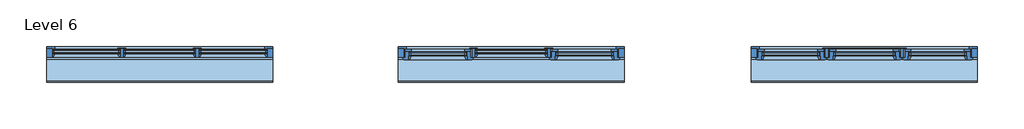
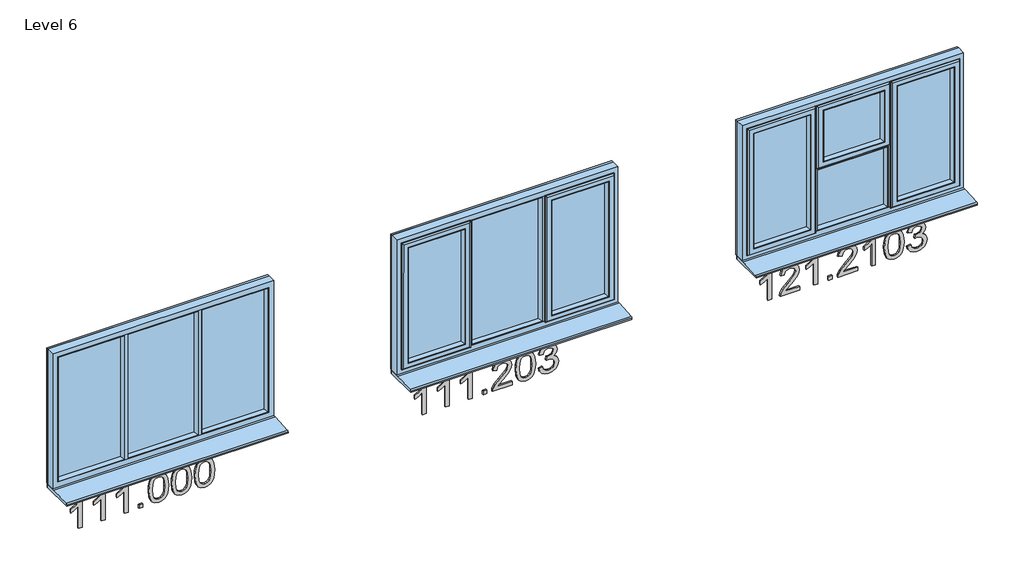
# One storey, incomplete: 3 proxies, 3 windows.
"""IFC4 building model written with IfcOpenShell, lengths in millimetres."""

from ifc_helpers import new_model, si_unit, frame, origin, place, context, project, spatial, polyline, outline, extrude, transform, mapped, element, save
from components import standard_d68943e1, standard_a03a8379, standard_205d9bfb

model = new_model("IFC4")

# Units and contexts
model_context = context("Model", 3, world=origin())
ifc_project = project(units=[si_unit("LENGTHUNIT", "METRE", prefix="MILLI")], contexts=[model_context])

# Site, building, storey
site = spatial("IfcSite", under=ifc_project)
building = spatial("IfcBuilding", under=site)
storey = spatial("IfcBuildingStorey", under=building, Name="Level 6", Elevation=15000.0)

# Proxies
placement = place(None, origin())
element("IfcBuildingElementProxy", 1, Name="200mm Arial", ObjectType="200mm Arial", at=placement, inside=storey, context=model_context, shape_type="SweptSolid", body=[
    extrude(outline(polyline([(15334.3207785, -163126.777074), (15535.2333988, -163126.777074), (15535.2333988, -163142.9638818), (15522.0754861, -163151.8359693), (15508.5006405, -163165.3065817), (15485.0052437, -163202.1193066), (15461.2645923, -163202.1193066), (15473.9442584, -163175.6808539), (15490.8913556, -163151.8911516), (15334.3207785, -163151.8911516), (15334.3207785, -163126.777074)])), frame((0.0, 24202.6264647, 0.0), z_axis=(0.0, 1.0, 0.0), x_axis=(0.0, 0.0, 1.0)), (0.0, 0.0, 1.0), 10.0),
    extrude(outline(polyline([(15334.3207785, -162972.9533491), (15535.2333988, -162972.9533491), (15535.2333988, -162989.1401569), (15522.0754861, -162998.0122444), (15508.5006405, -163011.4828567), (15485.0052437, -163048.2955817), (15461.2645923, -163048.2955817), (15473.9442584, -163021.857129), (15490.8913556, -162998.0674267), (15334.3207785, -162998.0674267), (15334.3207785, -162972.9533491)])), frame((0.0, 24202.6264647, 0.0), z_axis=(0.0, 1.0, 0.0), x_axis=(0.0, 0.0, 1.0)), (0.0, 0.0, 1.0), 10.0),
    extrude(outline(polyline([(15334.3207785, -162819.1296242), (15535.2333988, -162819.1296242), (15535.2333988, -162835.316432), (15522.0754861, -162844.1885194), (15508.5006405, -162857.6591318), (15485.0052437, -162894.4718568), (15461.2645923, -162894.4718568), (15473.9442584, -162868.0334041), (15490.8913556, -162844.2437017), (15334.3207785, -162844.2437017), (15334.3207785, -162819.1296242)])), frame((0.0, 24202.6264647, 0.0), z_axis=(0.0, 1.0, 0.0), x_axis=(0.0, 0.0, 1.0)), (0.0, 0.0, 1.0), 10.0),
    extrude(outline(polyline([(-162721.8125737, 24202.6264647), (-162746.9266513, 24202.6264647), (-162746.9266513, 24212.6264647), (-162721.8125737, 24212.6264647), (-162721.8125737, 24202.6264647)])), frame((0.0, 0.0, 15334.3207785), z_axis=(0.0, 0.0, 1.0), x_axis=(1.0, 0.0, 0.0)), (0.0, 0.0, 1.0), 25.1140775),
    extrude(outline(polyline([(15433.1584079, -162681.0021977), (15384.2914162, -162675.9990026), (15365.4405296, -162669.7450087), (15350.3113825, -162660.9894172), (15335.9639847, -162641.1728404), (15331.1815188, -162615.0777442), (15333.9345024, -162594.7767894), (15342.1934532, -162578.3140702), (15356.0503417, -162565.5792218), (15375.5971383, -162556.4618796), (15401.1833311, -162550.9804379), (15433.1584079, -162549.1532907), (15480.3699306, -162553.7150274), (15510.0947958, -162565.4872513), (15520.8553441, -162574.1570036), (15528.7586757, -162585.7452865), (15533.614718, -162599.6021749), (15535.2333988, -162615.0777442), (15532.4988093, -162635.2683344), (15524.2950408, -162651.6942655), (15510.4933346, -162664.447508), (15490.964932, -162673.6200324), (15465.3174256, -162679.1566564), (15433.1584079, -162681.0021977)]), holes=[polyline([(15433.2074588, -162655.8881202), (15472.2029503, -162652.8469624), (15496.6793657, -162643.7234889), (15506.7593324, -162631.0928737), (15510.1193212, -162615.3720498), (15506.3056112, -162598.7683091), (15494.8644812, -162585.6471846), (15471.8228055, -162577.1123223), (15433.2074588, -162574.2673682), (15393.7643775, -162577.2104242), (15370.8882488, -162586.0395921), (15359.9437594, -162599.185242), (15356.2955963, -162615.0777442), (15359.9314967, -162630.9702464), (15370.8391979, -162644.1158964), (15393.7030639, -162652.9450642), (15433.2074588, -162655.8881202)])]), frame((0.0, 24202.6264647, 0.0), z_axis=(0.0, 1.0, 0.0), x_axis=(0.0, 0.0, 1.0)), (0.0, 0.0, 1.0), 10.0),
    extrude(outline(polyline([(15433.1584079, -162527.1784728), (15384.2914162, -162522.1752777), (15365.4405296, -162515.9212838), (15350.3113825, -162507.1656923), (15335.9639847, -162487.3491155), (15331.1815188, -162461.2540193), (15333.9345024, -162440.9530645), (15342.1934532, -162424.4903452), (15356.0503417, -162411.7554968), (15375.5971383, -162402.6381547), (15401.1833311, -162397.156713), (15433.1584079, -162395.3295658), (15480.3699306, -162399.8913025), (15510.0947958, -162411.6635263), (15520.8553441, -162420.3332787), (15528.7586757, -162431.9215615), (15533.614718, -162445.77845), (15535.2333988, -162461.2540193), (15532.4988093, -162481.4446095), (15524.2950408, -162497.8705405), (15510.4933346, -162510.623783), (15490.964932, -162519.7963075), (15465.3174256, -162525.3329315), (15433.1584079, -162527.1784728)]), holes=[polyline([(15433.2074588, -162502.0643953), (15472.2029503, -162499.0232375), (15496.6793657, -162489.899764), (15506.7593324, -162477.2691488), (15510.1193212, -162461.5483249), (15506.3056112, -162444.9445842), (15494.8644812, -162431.8234597), (15471.8228055, -162423.2885974), (15433.2074588, -162420.4436433), (15393.7643775, -162423.3866993), (15370.8882488, -162432.2158671), (15359.9437594, -162445.3615171), (15356.2955963, -162461.2540193), (15359.9314967, -162477.1465215), (15370.8391979, -162490.2921714), (15393.7030639, -162499.1213393), (15433.2074588, -162502.0643953)])]), frame((0.0, 24202.6264647, 0.0), z_axis=(0.0, 1.0, 0.0), x_axis=(0.0, 0.0, 1.0)), (0.0, 0.0, 1.0), 10.0),
    extrude(outline(polyline([(15433.1584079, -162373.3547479), (15384.2914162, -162368.3515528), (15365.4405296, -162362.0975589), (15350.3113825, -162353.3419674), (15335.9639847, -162333.5253906), (15331.1815188, -162307.4302944), (15333.9345024, -162287.1293396), (15342.1934532, -162270.6666203), (15356.0503417, -162257.9317719), (15375.5971383, -162248.8144298), (15401.1833311, -162243.3329881), (15433.1584079, -162241.5058408), (15480.3699306, -162246.0675776), (15510.0947958, -162257.8398014), (15520.8553441, -162266.5095538), (15528.7586757, -162278.0978366), (15533.614718, -162291.9547251), (15535.2333988, -162307.4302944), (15532.4988093, -162327.6208845), (15524.2950408, -162344.0468156), (15510.4933346, -162356.8000581), (15490.964932, -162365.9725825), (15465.3174256, -162371.5092066), (15433.1584079, -162373.3547479)]), holes=[polyline([(15433.2074588, -162348.2406704), (15472.2029503, -162345.1995125), (15496.6793657, -162336.0760391), (15506.7593324, -162323.4454239), (15510.1193212, -162307.7246), (15506.3056112, -162291.1208593), (15494.8644812, -162277.9997348), (15471.8228055, -162269.4648725), (15433.2074588, -162266.6199184), (15393.7643775, -162269.5629743), (15370.8882488, -162278.3921422), (15359.9437594, -162291.5377922), (15356.2955963, -162307.4302944), (15359.9314967, -162323.3227966), (15370.8391979, -162336.4684465), (15393.7030639, -162345.2976144), (15433.2074588, -162348.2406704)])]), frame((0.0, 24202.6264647, 0.0), z_axis=(0.0, 1.0, 0.0), x_axis=(0.0, 0.0, 1.0)), (0.0, 0.0, 1.0), 10.0),
])
element("IfcBuildingElementProxy", 2, Name="200mm Arial", ObjectType="200mm Arial", at=placement, inside=storey, context=model_context, shape_type="SweptSolid", body=[
    extrude(outline(polyline([(15334.3207785, -160826.777074), (15535.2333988, -160826.777074), (15535.2333988, -160842.9638818), (15522.0754861, -160851.8359693), (15508.5006405, -160865.3065817), (15485.0052437, -160902.1193066), (15461.2645923, -160902.1193066), (15473.9442584, -160875.6808539), (15490.8913556, -160851.8911516), (15334.3207785, -160851.8911516), (15334.3207785, -160826.777074)])), frame((0.0, 24202.6264647, 0.0), z_axis=(0.0, 1.0, 0.0), x_axis=(0.0, 0.0, 1.0)), (0.0, 0.0, 1.0), 10.0),
    extrude(outline(polyline([(15334.3207785, -160672.9533491), (15535.2333988, -160672.9533491), (15535.2333988, -160689.1401569), (15522.0754861, -160698.0122444), (15508.5006405, -160711.4828567), (15485.0052437, -160748.2955817), (15461.2645923, -160748.2955817), (15473.9442584, -160721.857129), (15490.8913556, -160698.0674267), (15334.3207785, -160698.0674267), (15334.3207785, -160672.9533491)])), frame((0.0, 24202.6264647, 0.0), z_axis=(0.0, 1.0, 0.0), x_axis=(0.0, 0.0, 1.0)), (0.0, 0.0, 1.0), 10.0),
    extrude(outline(polyline([(15334.3207785, -160519.1296242), (15535.2333988, -160519.1296242), (15535.2333988, -160535.316432), (15522.0754861, -160544.1885194), (15508.5006405, -160557.6591318), (15485.0052437, -160594.4718568), (15461.2645923, -160594.4718568), (15473.9442584, -160568.0334041), (15490.8913556, -160544.2437017), (15334.3207785, -160544.2437017), (15334.3207785, -160519.1296242)])), frame((0.0, 24202.6264647, 0.0), z_axis=(0.0, 1.0, 0.0), x_axis=(0.0, 0.0, 1.0)), (0.0, 0.0, 1.0), 10.0),
    extrude(outline(polyline([(-160421.8125737, 24202.6264647), (-160446.9266513, 24202.6264647), (-160446.9266513, 24212.6264647), (-160421.8125737, 24212.6264647), (-160421.8125737, 24202.6264647)])), frame((0.0, 0.0, 15334.3207785), z_axis=(0.0, 0.0, 1.0), x_axis=(1.0, 0.0, 0.0)), (0.0, 0.0, 1.0), 25.1140775),
    extrude(outline(polyline([(15359.434856, -160252.2925504), (15359.434856, -160350.933976), (15372.212624, -160339.6032106), (15396.3702083, -160310.7122112), (15430.7794376, -160274.7333521), (15455.4030058, -160259.8954449), (15479.2172337, -160255.4318101), (15501.1184751, -160259.5704825), (15519.1446929, -160271.9864998), (15531.2112223, -160291.5026397), (15535.2333988, -160316.9416797), (15531.6158925, -160342.1967786), (15520.7633736, -160361.7497067), (15503.0191987, -160374.9137507), (15478.7267243, -160381.0021977), (15475.5874646, -160355.8881202), (15490.0207016, -160353.1719248), (15500.9467968, -160345.3176442), (15507.8261901, -160333.1468815), (15510.1193212, -160317.4812399), (15507.7710078, -160302.563625), (15500.7260676, -160290.7730071), (15490.2720876, -160283.1026675), (15477.6966547, -160280.5458876), (15463.668088, -160283.2559516), (15449.2471138, -160291.3861437), (15407.4066682, -160334.7471682), (15378.2949396, -160366.1888161), (15351.6357577, -160381.4436561), (15334.3207785, -160384.1414574), (15334.3207785, -160252.2925504), (15359.434856, -160252.2925504)])), frame((0.0, 24202.6264647, 0.0), z_axis=(0.0, 1.0, 0.0), x_axis=(0.0, 0.0, 1.0)), (0.0, 0.0, 1.0), 10.0),
    extrude(outline(polyline([(15433.1584079, -160227.1784728), (15384.2914162, -160222.1752777), (15365.4405296, -160215.9212838), (15350.3113825, -160207.1656923), (15335.9639847, -160187.3491155), (15331.1815188, -160161.2540193), (15333.9345024, -160140.9530645), (15342.1934532, -160124.4903452), (15356.0503417, -160111.7554968), (15375.5971383, -160102.6381547), (15401.1833311, -160097.156713), (15433.1584079, -160095.3295658), (15480.3699306, -160099.8913025), (15510.0947958, -160111.6635263), (15520.8553441, -160120.3332787), (15528.7586757, -160131.9215615), (15533.614718, -160145.77845), (15535.2333988, -160161.2540193), (15532.4988093, -160181.4446095), (15524.2950408, -160197.8705405), (15510.4933346, -160210.623783), (15490.964932, -160219.7963075), (15465.3174256, -160225.3329315), (15433.1584079, -160227.1784728)]), holes=[polyline([(15433.2074588, -160202.0643953), (15472.2029503, -160199.0232375), (15496.6793657, -160189.899764), (15506.7593324, -160177.2691488), (15510.1193212, -160161.5483249), (15506.3056112, -160144.9445842), (15494.8644812, -160131.8234597), (15471.8228055, -160123.2885974), (15433.2074588, -160120.4436433), (15393.7643775, -160123.3866993), (15370.8882488, -160132.2158671), (15359.9437594, -160145.3615171), (15356.2955963, -160161.2540193), (15359.9314967, -160177.1465215), (15370.8391979, -160190.2921714), (15393.7030639, -160199.1213393), (15433.2074588, -160202.0643953)])]), frame((0.0, 24202.6264647, 0.0), z_axis=(0.0, 1.0, 0.0), x_axis=(0.0, 0.0, 1.0)), (0.0, 0.0, 1.0), 10.0),
    extrude(outline(polyline([(15387.6881933, -160073.3547479), (15364.9898741, -160067.1375422), (15346.9268682, -160053.3910183), (15335.1178561, -160033.6234924), (15331.1815188, -160009.3432807), (15335.7923065, -159982.5001578), (15349.6246695, -159960.7338065), (15370.0789084, -159946.3128322), (15394.5553238, -159941.5058408), (15412.5324907, -159943.9093365), (15427.223245, -159951.1198236), (15438.0389757, -159962.7694202), (15444.3910714, -159978.4902441), (15451.6383467, -159966.5218165), (15461.0193376, -159957.8888524), (15472.031272, -159952.664928), (15484.1713779, -159950.9236199), (15497.2005318, -159952.7568985), (15509.5061846, -159958.2567344), (15520.1870252, -159967.2207923), (15528.3417427, -159979.4467373), (15533.5104848, -159993.9474193), (15535.2333988, -160009.7356882), (15531.7385198, -160031.6614551), (15521.253883, -160049.6631474), (15504.4171503, -160062.8210601), (15481.865984, -160070.2154882), (15478.7267243, -160045.1014107), (15492.4609855, -160040.6500385), (15502.271172, -160032.7896266), (15508.1572839, -160022.0229469), (15510.1193212, -160008.8527714), (15508.175678, -159995.7071215), (15502.3447484, -159985.2102219), (15493.5462374, -159978.3308286), (15482.6998499, -159976.0376975), (15469.6768272, -159979.2014826), (15460.5288283, -159988.6928381), (15455.120963, -160002.1450564), (15453.3183412, -160017.19143), (15453.6126468, -160021.2136065), (15428.4985693, -160024.0095096), (15431.2454215, -160006.4002248), (15428.6763789, -159990.6058245), (15420.9692511, -159977.852582), (15409.3380487, -159969.4280843), (15394.9967822, -159966.6199184), (15379.889095, -159969.4526097), (15367.4301581, -159977.9506838), (15359.0792368, -159991.2434866), (15356.2955963, -160008.460364), (15358.3189473, -160023.1327242), (15364.3890002, -160034.3837819), (15375.0453154, -160042.6182072), (15390.8274529, -160048.2406704), (15387.6881933, -160073.3547479)])), frame((0.0, 24202.6264647, 0.0), z_axis=(0.0, 1.0, 0.0), x_axis=(0.0, 0.0, 1.0)), (0.0, 0.0, 1.0), 10.0),
])
element("IfcBuildingElementProxy", 3, Name="200mm Arial", ObjectType="200mm Arial", at=placement, inside=storey, context=model_context, shape_type="SweptSolid", body=[
    extrude(outline(polyline([(15334.3207785, -158516.777074), (15535.2333988, -158516.777074), (15535.2333988, -158532.9638818), (15522.0754861, -158541.8359693), (15508.5006405, -158555.3065817), (15485.0052437, -158592.1193066), (15461.2645923, -158592.1193066), (15473.9442584, -158565.6808539), (15490.8913556, -158541.8911516), (15334.3207785, -158541.8911516), (15334.3207785, -158516.777074)])), frame((0.0, 24202.6264647, 0.0), z_axis=(0.0, 1.0, 0.0), x_axis=(0.0, 0.0, 1.0)), (0.0, 0.0, 1.0), 10.0),
    extrude(outline(polyline([(15359.434856, -158328.4214925), (15359.434856, -158427.0629181), (15372.212624, -158415.7321527), (15396.3702083, -158386.8411533), (15430.7794376, -158350.8622942), (15455.4030058, -158336.0243871), (15479.2172337, -158331.5607522), (15501.1184751, -158335.6994246), (15519.1446929, -158348.115442), (15531.2112223, -158367.6315818), (15535.2333988, -158393.0706218), (15531.6158925, -158418.3257208), (15520.7633736, -158437.8786488), (15503.0191987, -158451.0426929), (15478.7267243, -158457.1311399), (15475.5874646, -158432.0170623), (15490.0207016, -158429.3008669), (15500.9467968, -158421.4465863), (15507.8261901, -158409.2758237), (15510.1193212, -158393.610182), (15507.7710078, -158378.6925671), (15500.7260676, -158366.9019492), (15490.2720876, -158359.2316096), (15477.6966547, -158356.6748297), (15463.668088, -158359.3848938), (15449.2471138, -158367.5150859), (15407.4066682, -158410.8761104), (15378.2949396, -158442.3177582), (15351.6357577, -158457.5725983), (15334.3207785, -158460.2703996), (15334.3207785, -158328.4214925), (15359.434856, -158328.4214925)])), frame((0.0, 24202.6264647, 0.0), z_axis=(0.0, 1.0, 0.0), x_axis=(0.0, 0.0, 1.0)), (0.0, 0.0, 1.0), 10.0),
    extrude(outline(polyline([(15334.3207785, -158209.1296242), (15535.2333988, -158209.1296242), (15535.2333988, -158225.316432), (15522.0754861, -158234.1885194), (15508.5006405, -158247.6591318), (15485.0052437, -158284.4718568), (15461.2645923, -158284.4718568), (15473.9442584, -158258.0334041), (15490.8913556, -158234.2437017), (15334.3207785, -158234.2437017), (15334.3207785, -158209.1296242)])), frame((0.0, 24202.6264647, 0.0), z_axis=(0.0, 1.0, 0.0), x_axis=(0.0, 0.0, 1.0)), (0.0, 0.0, 1.0), 10.0),
    extrude(outline(polyline([(-158111.8125737, 24202.6264647), (-158136.9266513, 24202.6264647), (-158136.9266513, 24212.6264647), (-158111.8125737, 24212.6264647), (-158111.8125737, 24202.6264647)])), frame((0.0, 0.0, 15334.3207785), z_axis=(0.0, 0.0, 1.0), x_axis=(1.0, 0.0, 0.0)), (0.0, 0.0, 1.0), 25.1140775),
    extrude(outline(polyline([(15359.434856, -157942.2925504), (15359.434856, -158040.933976), (15372.212624, -158029.6032106), (15396.3702083, -158000.7122112), (15430.7794376, -157964.7333521), (15455.4030058, -157949.8954449), (15479.2172337, -157945.4318101), (15501.1184751, -157949.5704825), (15519.1446929, -157961.9864998), (15531.2112223, -157981.5026397), (15535.2333988, -158006.9416797), (15531.6158925, -158032.1967786), (15520.7633736, -158051.7497067), (15503.0191987, -158064.9137507), (15478.7267243, -158071.0021977), (15475.5874646, -158045.8881202), (15490.0207016, -158043.1719248), (15500.9467968, -158035.3176442), (15507.8261901, -158023.1468815), (15510.1193212, -158007.4812399), (15507.7710078, -157992.563625), (15500.7260676, -157980.7730071), (15490.2720876, -157973.1026675), (15477.6966547, -157970.5458876), (15463.668088, -157973.2559516), (15449.2471138, -157981.3861437), (15407.4066682, -158024.7471682), (15378.2949396, -158056.1888161), (15351.6357577, -158071.4436561), (15334.3207785, -158074.1414574), (15334.3207785, -157942.2925504), (15359.434856, -157942.2925504)])), frame((0.0, 24202.6264647, 0.0), z_axis=(0.0, 1.0, 0.0), x_axis=(0.0, 0.0, 1.0)), (0.0, 0.0, 1.0), 10.0),
    extrude(outline(polyline([(15334.3207785, -157823.0006821), (15535.2333988, -157823.0006821), (15535.2333988, -157839.1874898), (15522.0754861, -157848.0595773), (15508.5006405, -157861.5301897), (15485.0052437, -157898.3429147), (15461.2645923, -157898.3429147), (15473.9442584, -157871.904462), (15490.8913556, -157848.1147596), (15334.3207785, -157848.1147596), (15334.3207785, -157823.0006821)])), frame((0.0, 24202.6264647, 0.0), z_axis=(0.0, 1.0, 0.0), x_axis=(0.0, 0.0, 1.0)), (0.0, 0.0, 1.0), 10.0),
    extrude(outline(polyline([(15433.1584079, -157763.3547479), (15384.2914162, -157758.3515528), (15365.4405296, -157752.0975589), (15350.3113825, -157743.3419674), (15335.9639847, -157723.5253906), (15331.1815188, -157697.4302944), (15333.9345024, -157677.1293396), (15342.1934532, -157660.6666203), (15356.0503417, -157647.9317719), (15375.5971383, -157638.8144298), (15401.1833311, -157633.3329881), (15433.1584079, -157631.5058408), (15480.3699306, -157636.0675776), (15510.0947958, -157647.8398014), (15520.8553441, -157656.5095538), (15528.7586757, -157668.0978366), (15533.614718, -157681.9547251), (15535.2333988, -157697.4302944), (15532.4988093, -157717.6208845), (15524.2950408, -157734.0468156), (15510.4933346, -157746.8000581), (15490.964932, -157755.9725825), (15465.3174256, -157761.5092066), (15433.1584079, -157763.3547479)]), holes=[polyline([(15433.2074588, -157738.2406704), (15472.2029503, -157735.1995125), (15496.6793657, -157726.0760391), (15506.7593324, -157713.4454239), (15510.1193212, -157697.7246), (15506.3056112, -157681.1208593), (15494.8644812, -157667.9997348), (15471.8228055, -157659.4648725), (15433.2074588, -157656.6199184), (15393.7643775, -157659.5629743), (15370.8882488, -157668.3921422), (15359.9437594, -157681.5377922), (15356.2955963, -157697.4302944), (15359.9314967, -157713.3227966), (15370.8391979, -157726.4684465), (15393.7030639, -157735.2976144), (15433.2074588, -157738.2406704)])]), frame((0.0, 24202.6264647, 0.0), z_axis=(0.0, 1.0, 0.0), x_axis=(0.0, 0.0, 1.0)), (0.0, 0.0, 1.0), 10.0),
    extrude(outline(polyline([(15387.6881933, -157609.531023), (15364.9898741, -157603.3138173), (15346.9268682, -157589.5672934), (15335.1178561, -157569.7997675), (15331.1815188, -157545.5195558), (15335.7923065, -157518.6764329), (15349.6246695, -157496.9100815), (15370.0789084, -157482.4891073), (15394.5553238, -157477.6821159), (15412.5324907, -157480.0856116), (15427.223245, -157487.2960987), (15438.0389757, -157498.9456952), (15444.3910714, -157514.6665192), (15451.6383467, -157502.6980916), (15461.0193376, -157494.0651274), (15472.031272, -157488.8412031), (15484.1713779, -157487.099895), (15497.2005318, -157488.9331736), (15509.5061846, -157494.4330094), (15520.1870252, -157503.3970674), (15528.3417427, -157515.6230124), (15533.5104848, -157530.1236943), (15535.2333988, -157545.9119633), (15531.7385198, -157567.8377302), (15521.253883, -157585.8394225), (15504.4171503, -157598.9973352), (15481.865984, -157606.3917633), (15478.7267243, -157581.2776858), (15492.4609855, -157576.8263136), (15502.271172, -157568.9659017), (15508.1572839, -157558.1992219), (15510.1193212, -157545.0290465), (15508.175678, -157531.8833965), (15502.3447484, -157521.3864969), (15493.5462374, -157514.5071036), (15482.6998499, -157512.2139725), (15469.6768272, -157515.3777577), (15460.5288283, -157524.8691132), (15455.120963, -157538.3213315), (15453.3183412, -157553.3677051), (15453.6126468, -157557.3898815), (15428.4985693, -157560.1857847), (15431.2454215, -157542.5764999), (15428.6763789, -157526.7820995), (15420.9692511, -157514.028857), (15409.3380487, -157505.6043594), (15394.9967822, -157502.7961935), (15379.889095, -157505.6288848), (15367.4301581, -157514.1269589), (15359.0792368, -157527.4197617), (15356.2955963, -157544.636639), (15358.3189473, -157559.3089993), (15364.3890002, -157570.560057), (15375.0453154, -157578.7944823), (15390.8274529, -157584.4169455), (15387.6881933, -157609.531023)])), frame((0.0, 24202.6264647, 0.0), z_axis=(0.0, 1.0, 0.0), x_axis=(0.0, 0.0, 1.0)), (0.0, 0.0, 1.0), 10.0),
])

# Windows
standard_shape = standard_d68943e1(model_context)
element("IfcWindow", 4, ObjectType="SMARTS_Alitherm600 : Standard", at=placement, inside=storey, context=model_context, shape_type="MappedRepresentation", body=[
    mapped(standard_shape, transform((-157945.7668676, 24355.9063079, 15000.0), x_axis=(-1.0, 0.0, 0.0), y_axis=(0.0, -1.0, 0.0), z_axis=(0.0, 0.0, 1.0))),
])
standard_2_shape = standard_a03a8379(model_context)
element("IfcWindow", 5, ObjectType="SMARTS_Alitherm600 : Standard", at=placement, inside=storey, context=model_context, shape_type="MappedRepresentation", body=[
    mapped(standard_2_shape, transform((-160255.7668676, 24355.9063079, 15000.0), x_axis=(-1.0, 0.0, 0.0), y_axis=(0.0, -1.0, 0.0), z_axis=(0.0, 0.0, 1.0))),
])
standard_3_shape = standard_205d9bfb(model_context)
element("IfcWindow", 6, ObjectType="SMARTS_Alitherm600 : Standard", at=placement, inside=storey, context=model_context, shape_type="MappedRepresentation", body=[
    mapped(standard_3_shape, transform((-162555.7668676, 24355.9063079, 15000.0), x_axis=(-1.0, 0.0, 0.0), y_axis=(0.0, -1.0, 0.0), z_axis=(0.0, 0.0, 1.0))),
])

save(model, "model.ifc")
